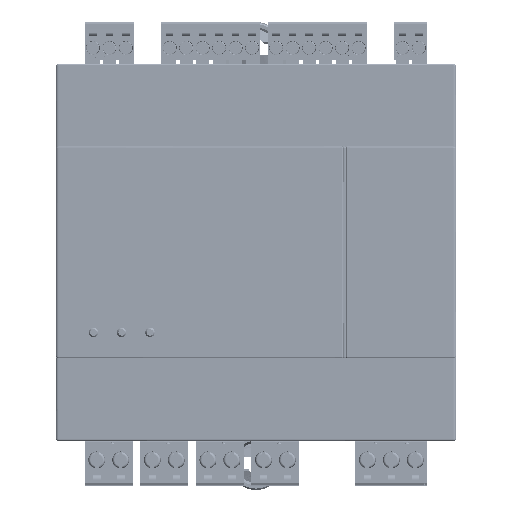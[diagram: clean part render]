
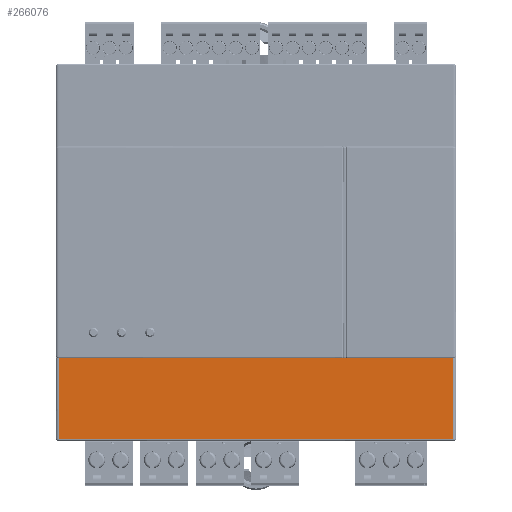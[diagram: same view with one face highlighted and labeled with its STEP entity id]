
A CAD part, top view. The second image highlights one B-rep face of the part: STEP entity #266076.
In plain terms, the highlighted planar face has unit normal (0, 0, 1).
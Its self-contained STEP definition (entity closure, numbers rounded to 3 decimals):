
#2682 = VERTEX_POINT ( 'NONE', #194004 ) ;
#4330 = EDGE_CURVE ( 'NONE', #162133, #132190, #36087, .T. ) ;
#5743 = EDGE_LOOP ( 'NONE', ( #77401, #206624, #10292, #198848, #223475, #19540, #102984, #281797 ) ) ;
#10292 = ORIENTED_EDGE ( 'NONE', *, *, #103264, .F. ) ;
#11232 = CARTESIAN_POINT ( 'NONE',  ( -2333.764, -207.992, 47.44 ) ) ;
#16071 = DIRECTION ( 'NONE',  ( 1., 0., 0. ) ) ;
#17782 = EDGE_CURVE ( 'NONE', #38559, #163250, #128714, .T. ) ;
#19540 = ORIENTED_EDGE ( 'NONE', *, *, #62273, .F. ) ;
#19778 = FACE_OUTER_BOUND ( 'NONE', #5743, .T. ) ;
#23485 = CARTESIAN_POINT ( 'NONE',  ( -2304.614, -225.192, 47.44 ) ) ;
#27261 = B_SPLINE_CURVE_WITH_KNOTS ( 'NONE', 1,
 ( #130845, #150086, #285356 ),
 .UNSPECIFIED., .F., .F.,
 ( 2, 1, 2 ),
 ( -45.723, -17.342, -9.713 ),
 .UNSPECIFIED. ) ;
#29818 = VERTEX_POINT ( 'NONE', #147325 ) ;
#35443 = PLANE ( 'NONE',  #84336 ) ;
#36087 = B_SPLINE_CURVE_WITH_KNOTS ( 'NONE', 1,
 ( #143927, #288660, #37876 ),
 .UNSPECIFIED., .F., .F.,
 ( 2, 1, 2 ),
 ( -17.2, -3.2, 0. ),
 .UNSPECIFIED. ) ;
#37876 = CARTESIAN_POINT ( 'NONE',  ( -2249.964, -225.192, 47.44 ) ) ;
#38559 = VERTEX_POINT ( 'NONE', #72348 ) ;
#54266 = B_SPLINE_CURVE_WITH_KNOTS ( 'NONE', 1,
 ( #194454, #160560, #271720, #121997, #11232 ),
 .UNSPECIFIED., .F., .F.,
 ( 2, 1, 1, 1, 2 ),
 ( 0., 5.2, 12.8, 13.2, 17.2 ),
 .UNSPECIFIED. ) ;
#59571 = CARTESIAN_POINT ( 'NONE',  ( -2325.679, -226.912, 47.44 ) ) ;
#62273 = EDGE_CURVE ( 'NONE', #132190, #2682, #27261, .T. ) ;
#72348 = CARTESIAN_POINT ( 'NONE',  ( -2284.335, -207.992, 47.44 ) ) ;
#73559 = CARTESIAN_POINT ( 'NONE',  ( -2304.614, -225.192, 47.44 ) ) ;
#77401 = ORIENTED_EDGE ( 'NONE', *, *, #296007, .F. ) ;
#78515 = CARTESIAN_POINT ( 'NONE',  ( -2330.37, -225.192, 47.44 ) ) ;
#84336 = AXIS2_PLACEMENT_3D ( 'NONE', #59571, #97966, #16071 ) ;
#85781 = CARTESIAN_POINT ( 'NONE',  ( -2274.335, -207.992, 47.44 ) ) ;
#89618 = DIRECTION ( 'NONE',  ( 1., 0., 0. ) ) ;
#97539 = VECTOR ( 'NONE', #89618, 1000. ) ;
#97728 = CARTESIAN_POINT ( 'NONE',  ( -2323.764, -225.192, 47.44 ) ) ;
#97966 = DIRECTION ( 'NONE',  ( 0., 0., 1. ) ) ;
#98545 = CARTESIAN_POINT ( 'NONE',  ( -2249.964, -207.992, 47.44 ) ) ;
#102984 = ORIENTED_EDGE ( 'NONE', *, *, #4330, .F. ) ;
#103264 = EDGE_CURVE ( 'NONE', #29818, #163250, #54266, .T. ) ;
#114421 = VERTEX_POINT ( 'NONE', #85781 ) ;
#121997 = CARTESIAN_POINT ( 'NONE',  ( -2333.764, -211.992, 47.44 ) ) ;
#124375 = B_SPLINE_CURVE_WITH_KNOTS ( 'NONE', 1,
 ( #73559, #97728, #266580, #78515, #136261 ),
 .UNSPECIFIED., .F., .F.,
 ( 2, 1, 1, 1, 2 ),
 ( -19.15, 0., 2.873, 6.607, 10. ),
 .UNSPECIFIED. ) ;
#128714 = B_SPLINE_CURVE_WITH_KNOTS ( 'NONE', 1,
 ( #258600, #239430, #278018, #147743 ),
 .UNSPECIFIED., .F., .F.,
 ( 2, 1, 1, 2 ),
 ( 34.372, 36.01, 73.8, 83.8 ),
 .UNSPECIFIED. ) ;
#130845 = CARTESIAN_POINT ( 'NONE',  ( -2249.964, -225.192, 47.44 ) ) ;
#132190 = VERTEX_POINT ( 'NONE', #251052 ) ;
#136261 = CARTESIAN_POINT ( 'NONE',  ( -2333.764, -225.192, 47.44 ) ) ;
#138250 = EDGE_CURVE ( 'NONE', #162133, #114421, #288013, .T. ) ;
#139390 = CARTESIAN_POINT ( 'NONE',  ( -2333.764, -207.992, 47.44 ) ) ;
#142618 = CARTESIAN_POINT ( 'NONE',  ( -2403.618, -207.992, 47.44 ) ) ;
#143927 = CARTESIAN_POINT ( 'NONE',  ( -2249.964, -207.992, 47.44 ) ) ;
#147325 = CARTESIAN_POINT ( 'NONE',  ( -2333.764, -225.192, 47.44 ) ) ;
#147743 = CARTESIAN_POINT ( 'NONE',  ( -2333.764, -207.992, 47.44 ) ) ;
#149492 = CARTESIAN_POINT ( 'NONE',  ( -2249.964, -207.992, 47.44 ) ) ;
#150086 = CARTESIAN_POINT ( 'NONE',  ( -2278.345, -225.192, 47.44 ) ) ;
#160560 = CARTESIAN_POINT ( 'NONE',  ( -2333.764, -219.992, 47.44 ) ) ;
#162133 = VERTEX_POINT ( 'NONE', #98545 ) ;
#163250 = VERTEX_POINT ( 'NONE', #139390 ) ;
#165906 = EDGE_CURVE ( 'NONE', #2682, #259323, #259374, .T. ) ;
#166739 = CARTESIAN_POINT ( 'NONE',  ( -2304.614, -225.192, 47.44 ) ) ;
#194004 = CARTESIAN_POINT ( 'NONE',  ( -2285.974, -225.192, 47.44 ) ) ;
#194454 = CARTESIAN_POINT ( 'NONE',  ( -2333.764, -225.192, 47.44 ) ) ;
#198848 = ORIENTED_EDGE ( 'NONE', *, *, #265198, .F. ) ;
#206624 = ORIENTED_EDGE ( 'NONE', *, *, #17782, .T. ) ;
#223475 = ORIENTED_EDGE ( 'NONE', *, *, #165906, .F. ) ;
#236437 = CARTESIAN_POINT ( 'NONE',  ( -2274.335, -207.992, 47.44 ) ) ;
#239430 = CARTESIAN_POINT ( 'NONE',  ( -2285.974, -207.992, 47.44 ) ) ;
#243602 = LINE ( 'NONE', #142618, #97539 ) ;
#251052 = CARTESIAN_POINT ( 'NONE',  ( -2249.964, -225.192, 47.44 ) ) ;
#258434 = CARTESIAN_POINT ( 'NONE',  ( -2285.974, -225.192, 47.44 ) ) ;
#258600 = CARTESIAN_POINT ( 'NONE',  ( -2284.335, -207.992, 47.44 ) ) ;
#259323 = VERTEX_POINT ( 'NONE', #23485 ) ;
#259374 = B_SPLINE_CURVE_WITH_KNOTS ( 'NONE', 1,
 ( #258434, #166739 ),
 .UNSPECIFIED., .F., .F.,
 ( 2, 2 ),
 ( -18.64, 0. ),
 .UNSPECIFIED. ) ;
#265198 = EDGE_CURVE ( 'NONE', #259323, #29818, #124375, .T. ) ;
#266076 = ADVANCED_FACE ( 'NONE', ( #19778 ), #35443, .T. ) ;
#266580 = CARTESIAN_POINT ( 'NONE',  ( -2326.636, -225.192, 47.44 ) ) ;
#271720 = CARTESIAN_POINT ( 'NONE',  ( -2333.764, -212.392, 47.44 ) ) ;
#278018 = CARTESIAN_POINT ( 'NONE',  ( -2323.764, -207.992, 47.44 ) ) ;
#281797 = ORIENTED_EDGE ( 'NONE', *, *, #138250, .T. ) ;
#285356 = CARTESIAN_POINT ( 'NONE',  ( -2285.974, -225.192, 47.44 ) ) ;
#288013 = B_SPLINE_CURVE_WITH_KNOTS ( 'NONE', 1,
 ( #149492, #236437 ),
 .UNSPECIFIED., .F., .F.,
 ( 2, 2 ),
 ( 0., 24.372 ),
 .UNSPECIFIED. ) ;
#288660 = CARTESIAN_POINT ( 'NONE',  ( -2249.964, -221.992, 47.44 ) ) ;
#296007 = EDGE_CURVE ( 'NONE', #38559, #114421, #243602, .T. ) ;
